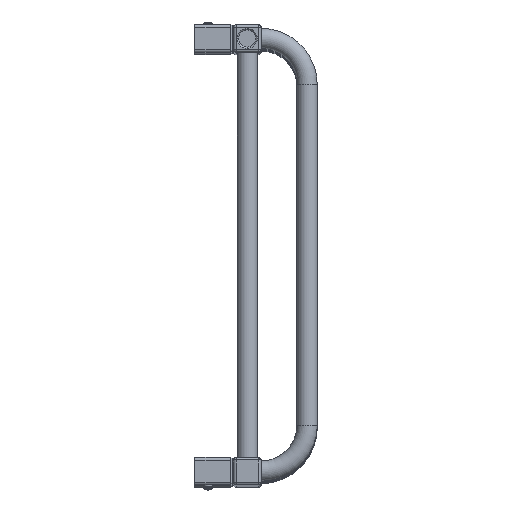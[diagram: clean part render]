
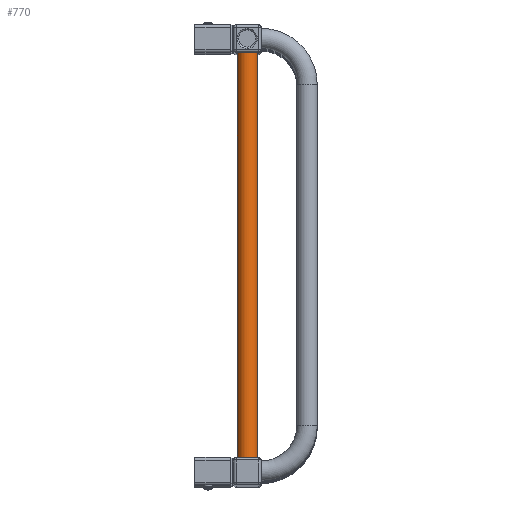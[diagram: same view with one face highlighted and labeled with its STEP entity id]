
A CAD part, top view. The second image highlights one B-rep face of the part: STEP entity #770.
In plain terms, the highlighted cylindrical face has radius 11 mm (diameter 22 mm), a full revolution.
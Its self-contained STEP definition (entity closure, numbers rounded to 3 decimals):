
#743=CARTESIAN_POINT('',(0.0,-220.0,1230.0));
#744=DIRECTION('',(0.0,1.0,0.0));
#745=DIRECTION('',(-1.0,0.0,0.0));
#746=AXIS2_PLACEMENT_3D('',#743,#744,#745);
#747=CYLINDRICAL_SURFACE('',#746,11.);
#748=CARTESIAN_POINT('',(11.,-220.0,1230.0));
#749=VERTEX_POINT('',#748);
#750=CARTESIAN_POINT('',(0.0,-220.0,1230.0));
#751=DIRECTION('',(0.0,-1.0,0.0));
#752=DIRECTION('',(-1.0,0.0,0.0));
#753=AXIS2_PLACEMENT_3D('',#750,#751,#752);
#754=CIRCLE('',#753,11.);
#755=EDGE_CURVE('',#749,#749,#754,.T.);
#756=ORIENTED_EDGE('',*,*,#755,.F.);
#757=EDGE_LOOP('',(#756));
#758=FACE_OUTER_BOUND('',#757,.T.);
#759=CARTESIAN_POINT('',(11.,220.0,1230.0));
#760=VERTEX_POINT('',#759);
#761=CARTESIAN_POINT('',(0.0,220.0,1230.0));
#762=DIRECTION('',(0.0,1.0,0.0));
#763=DIRECTION('',(-1.0,0.0,0.0));
#764=AXIS2_PLACEMENT_3D('',#761,#762,#763);
#765=CIRCLE('',#764,11.);
#766=EDGE_CURVE('',#760,#760,#765,.T.);
#767=ORIENTED_EDGE('',*,*,#766,.F.);
#768=EDGE_LOOP('',(#767));
#769=FACE_BOUND('',#768,.T.);
#770=ADVANCED_FACE('',(#758,#769),#747,.T.);
